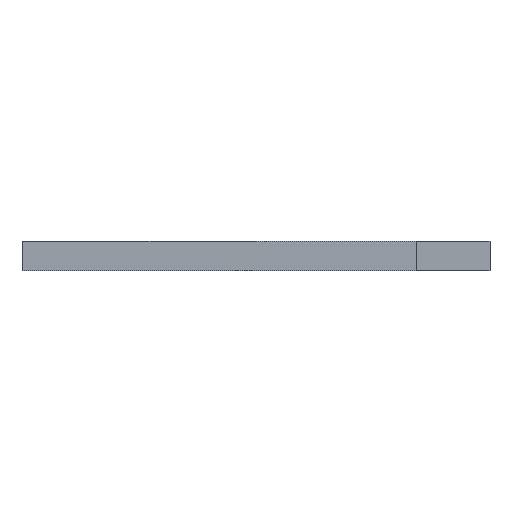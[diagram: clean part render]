
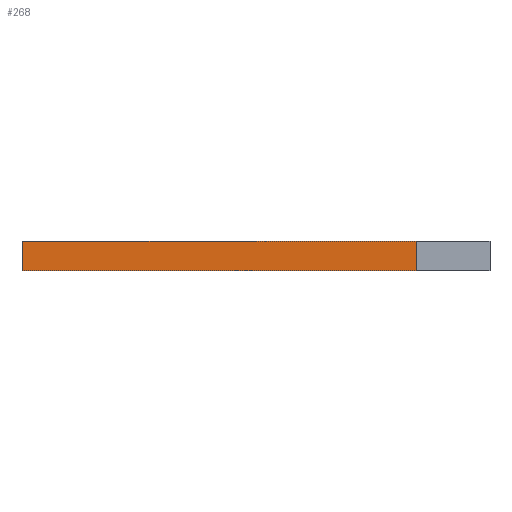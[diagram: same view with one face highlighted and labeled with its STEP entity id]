
A CAD part, front view. The second image highlights one B-rep face of the part: STEP entity #268.
In plain terms, the highlighted planar face has unit normal (0, -1, 0).
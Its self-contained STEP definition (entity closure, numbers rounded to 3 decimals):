
#38 = DIRECTION ( 'NONE',  ( 0., 0., 1. ) ) ;
#60 = CARTESIAN_POINT ( 'NONE',  ( -20.5, -32., 4. ) ) ;
#63 = EDGE_CURVE ( 'NONE', #215, #1065, #683, .T. ) ;
#77 = EDGE_CURVE ( 'NONE', #1065, #950, #1063, .T. ) ;
#78 = ORIENTED_EDGE ( 'NONE', *, *, #1125, .F. ) ;
#88 = CIRCLE ( 'NONE', #250, 1. ) ;
#123 = VERTEX_POINT ( 'NONE', #491 ) ;
#131 = VERTEX_POINT ( 'NONE', #780 ) ;
#149 = EDGE_CURVE ( 'NONE', #215, #123, #1193, .T. ) ;
#151 = DIRECTION ( 'NONE',  ( 0., 0., -1. ) ) ;
#156 = DIRECTION ( 'NONE',  ( 0., -1., 0. ) ) ;
#210 = CARTESIAN_POINT ( 'NONE',  ( -20.5, -32., 0. ) ) ;
#215 = VERTEX_POINT ( 'NONE', #903 ) ;
#247 = EDGE_CURVE ( 'NONE', #123, #950, #525, .T. ) ;
#250 = AXIS2_PLACEMENT_3D ( 'NONE', #260, #156, #1029 ) ;
#260 = CARTESIAN_POINT ( 'NONE',  ( 41.5, -32., 1.098 ) ) ;
#268 = ADVANCED_FACE ( 'NONE', ( #1104, #805 ), #705, .F. ) ;
#318 = CARTESIAN_POINT ( 'NONE',  ( 41.5, -32., 2.098 ) ) ;
#336 = CARTESIAN_POINT ( 'NONE',  ( -20.5, -32., 4. ) ) ;
#451 = VERTEX_POINT ( 'NONE', #318 ) ;
#473 = ORIENTED_EDGE ( 'NONE', *, *, #77, .T. ) ;
#491 = CARTESIAN_POINT ( 'NONE',  ( 43.5, -32., 4. ) ) ;
#493 = CARTESIAN_POINT ( 'NONE',  ( 43.5, -32., 0. ) ) ;
#495 = EDGE_LOOP ( 'NONE', ( #473, #1216, #765, #1054 ) ) ;
#525 = LINE ( 'NONE', #620, #1212 ) ;
#580 = DIRECTION ( 'NONE',  ( 1., 0., 0. ) ) ;
#605 = EDGE_CURVE ( 'NONE', #131, #451, #862, .T. ) ;
#609 = DIRECTION ( 'NONE',  ( 0., -1., 0. ) ) ;
#619 = CARTESIAN_POINT ( 'NONE',  ( 41.5, -32., 1.098 ) ) ;
#620 = CARTESIAN_POINT ( 'NONE',  ( 43.5, -32., 4. ) ) ;
#672 = DIRECTION ( 'NONE',  ( 0., 0., -1. ) ) ;
#680 = VECTOR ( 'NONE', #723, 1000. ) ;
#683 = LINE ( 'NONE', #1067, #809 ) ;
#705 = PLANE ( 'NONE',  #841 ) ;
#712 = DIRECTION ( 'NONE',  ( 0., 1., 0. ) ) ;
#720 = EDGE_LOOP ( 'NONE', ( #78, #752 ) ) ;
#723 = DIRECTION ( 'NONE',  ( 1., 0., 0. ) ) ;
#752 = ORIENTED_EDGE ( 'NONE', *, *, #605, .F. ) ;
#765 = ORIENTED_EDGE ( 'NONE', *, *, #149, .F. ) ;
#780 = CARTESIAN_POINT ( 'NONE',  ( 41.5, -32., 0.098 ) ) ;
#805 = FACE_OUTER_BOUND ( 'NONE', #495, .T. ) ;
#809 = VECTOR ( 'NONE', #672, 1000. ) ;
#813 = CARTESIAN_POINT ( 'NONE',  ( -20.5, -32., 0. ) ) ;
#824 = AXIS2_PLACEMENT_3D ( 'NONE', #619, #609, #38 ) ;
#841 = AXIS2_PLACEMENT_3D ( 'NONE', #336, #712, #913 ) ;
#862 = CIRCLE ( 'NONE', #824, 1. ) ;
#868 = VECTOR ( 'NONE', #580, 1000. ) ;
#903 = CARTESIAN_POINT ( 'NONE',  ( -20.5, -32., 4. ) ) ;
#913 = DIRECTION ( 'NONE',  ( 0., 0., 1. ) ) ;
#950 = VERTEX_POINT ( 'NONE', #493 ) ;
#1029 = DIRECTION ( 'NONE',  ( 0., 0., 1. ) ) ;
#1054 = ORIENTED_EDGE ( 'NONE', *, *, #63, .T. ) ;
#1063 = LINE ( 'NONE', #210, #868 ) ;
#1065 = VERTEX_POINT ( 'NONE', #813 ) ;
#1067 = CARTESIAN_POINT ( 'NONE',  ( -20.5, -32., 4. ) ) ;
#1104 = FACE_BOUND ( 'NONE', #720, .T. ) ;
#1125 = EDGE_CURVE ( 'NONE', #451, #131, #88, .T. ) ;
#1193 = LINE ( 'NONE', #60, #680 ) ;
#1212 = VECTOR ( 'NONE', #151, 1000. ) ;
#1216 = ORIENTED_EDGE ( 'NONE', *, *, #247, .F. ) ;
